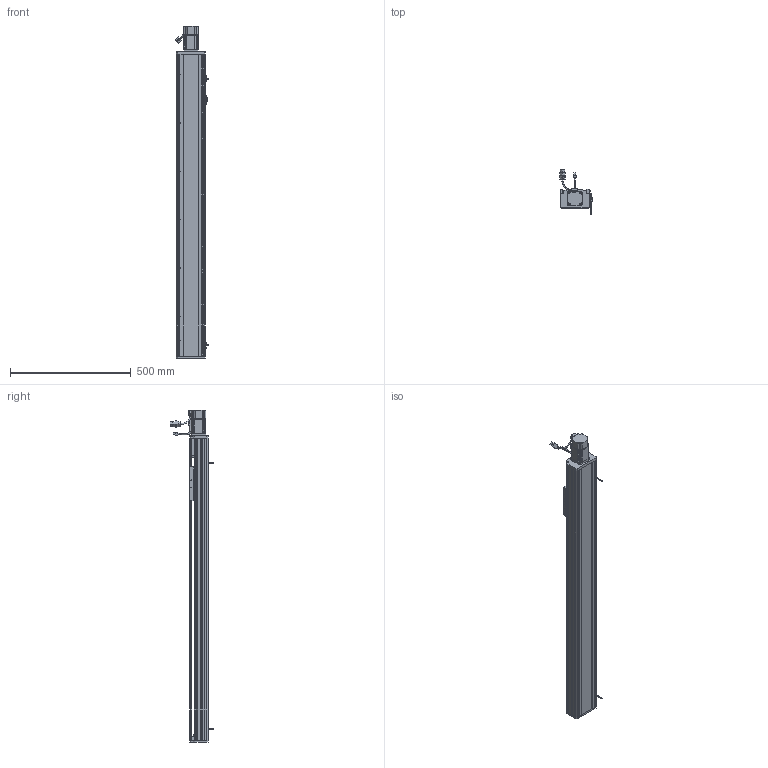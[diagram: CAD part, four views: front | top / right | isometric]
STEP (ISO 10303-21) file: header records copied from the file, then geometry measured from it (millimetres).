
FILE_DESCRIPTION (( 'STEP AP214' ), '1' );
FILE_NAME ('CTH120-1000.STEP', '2019-11-20T02:45:33', ( '微软用户' ), ( '微软中国' ), 'SwSTEP 2.0', 'SolidWorks 2017', '' );
FILE_SCHEMA (( 'AUTOMOTIVE_DESIGN' ));
Length unit declared in the file: millimetre
Products named in the file (33): 136蹟簽蟀諉輸; 6000; 120模组-移动座_默认<按加工>; 120耀郪-盓傅釱; SFH1605-450; M4-L16囀鞠褒蹟佪; 120模组-底座_默认<按加工>; EGH15-CA; EGH15_RAIL; CTH120-1000; 珨极宒粣創釱; 遣喳蝶15x12x8; M4-L10囀鞠褒蹟佪; M4-L22囀鞠褒蹟佪; 7001-DB; 7001; 噩砃EGH15-CA; 粣創揤啣; M3-L8囀鞠褒蹟佪; COL12B-粣遠; CT12耀郪-覜茼んえ; 坶踡蹟譫; EE-SX672-BR; 120耀郪-粣創釱; M4-L6半圆头内六角螺丝; 120耀郪-傷啣; M5-L20囀鞠褒蹟佪; 120模组-盖子_默认<按加工>; M5-L12囀鞠褒蹟佪; 120耀郪-侜督儂啣; 怢湛200W侜督萇儂ECMA-CX0602ES; SFH1605; 盓傅釱蚾饜极
Assembly tree (90 placements, depth 4):
  CTH120-1000
    120模组-底座_默认<按加工>
    SFH1605-450
    120模组-移动座_默认<按加工>
    136蹟簽蟀諉輸
    SFH1605
    120耀郪-侜督儂啣
    120模组-盖子_默认<按加工>
    120耀郪-傷啣
    珨极宒粣創釱
      120耀郪-粣創釱
      坶踡蹟譫
      COL12B-粣遠  x2
      粣創揤啣
      7001-DB
        7001  x2
      M4-L22囀鞠褒蹟佪  x6
      M4-L10囀鞠褒蹟佪  x4
      遣喳蝶15x12x8
    EGH15_RAIL  x2
    EGH15-CA  x2
    M4-L16囀鞠褒蹟佪  x8
    M4-L10囀鞠褒蹟佪  x22
    盓傅釱蚾饜极
      120耀郪-盓傅釱
      6000
      遣喳蝶15x12x8  x2
      M4-L22囀鞠褒蹟佪  x2
    怢湛200W侜督萇儂ECMA-CX0602ES
    M5-L12囀鞠褒蹟佪  x3
    M5-L20囀鞠褒蹟佪  x4
    M4-L6半圆头内六角螺丝  x4
    EE-SX672-BR  x2
    CT12耀郪-覜茼んえ
    M3-L8囀鞠褒蹟佪  x4
    噩砃EGH15-CA  x2
Bounding box: 137.94 x 179.67 x 1372 mm (x, y, z)
Volume: 5086720.4 mm3; surface area: 1572619.2 mm2
Topology: 87 solids, 96 shells, 5484 faces, 14559 edges, 9329 vertices
Faces by surface type: plane 2931, cylinder 1660, cone 559, bspline 241, torus 81, sphere 12
Entity records: 119426 total; most frequent: CARTESIAN_POINT 35411, ORIENTED_EDGE 17796, DIRECTION 15969, EDGE_CURVE 8898, VERTEX_POINT 5843, AXIS2_PLACEMENT_3D 5474, VECTOR 5021, LINE 5021
